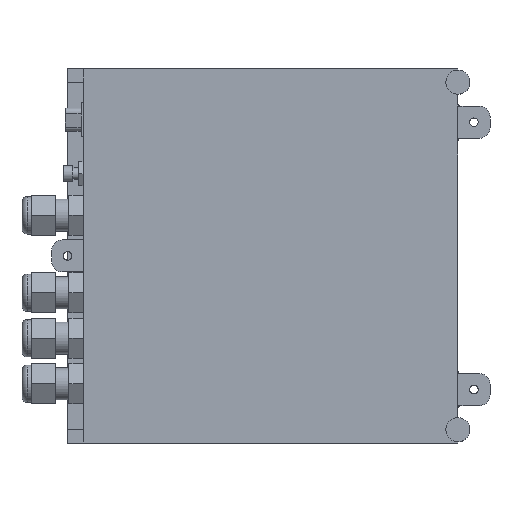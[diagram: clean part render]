
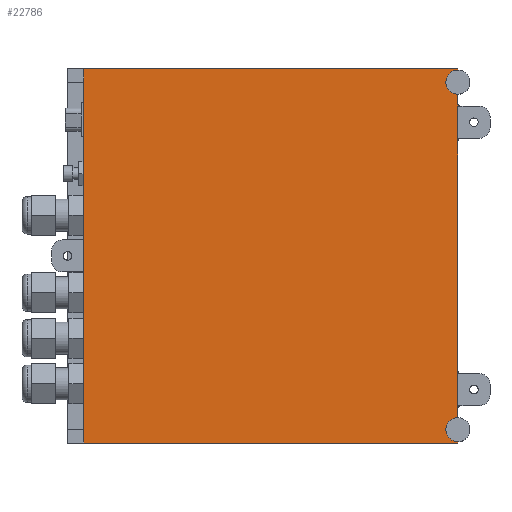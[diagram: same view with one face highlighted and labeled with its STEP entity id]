
A CAD part, top view. The second image highlights one B-rep face of the part: STEP entity #22786.
In plain terms, the highlighted planar face has unit normal (0, 0, 1).
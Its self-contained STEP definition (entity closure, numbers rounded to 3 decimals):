
#873=PLANE('',#50216);
#2999=FACE_OUTER_BOUND('',#5860,.F.);
#5860=EDGE_LOOP('',(#9924,#9925,#9926,#9927,#9928,#9929,#9930,#9931,#9932,
#9933,#9934,#9935,#9936,#9937,#9938,#9939,#9940,#9941,#9942,#9943,#9944,
#9945));
#9924=ORIENTED_EDGE('',*,*,#38756,.F.);
#9925=ORIENTED_EDGE('',*,*,#38785,.F.);
#9926=ORIENTED_EDGE('',*,*,#38634,.T.);
#9927=ORIENTED_EDGE('',*,*,#38751,.F.);
#9928=ORIENTED_EDGE('',*,*,#38764,.F.);
#9929=ORIENTED_EDGE('',*,*,#38761,.T.);
#9930=ORIENTED_EDGE('',*,*,#38763,.F.);
#9931=ORIENTED_EDGE('',*,*,#38762,.F.);
#9932=ORIENTED_EDGE('',*,*,#38768,.F.);
#9933=ORIENTED_EDGE('',*,*,#38733,.F.);
#9934=ORIENTED_EDGE('',*,*,#38770,.F.);
#9935=ORIENTED_EDGE('',*,*,#38789,.F.);
#9936=ORIENTED_EDGE('',*,*,#38625,.T.);
#9937=ORIENTED_EDGE('',*,*,#38769,.F.);
#9938=ORIENTED_EDGE('',*,*,#38753,.F.);
#9939=ORIENTED_EDGE('',*,*,#38820,.F.);
#9940=ORIENTED_EDGE('',*,*,#38819,.F.);
#9941=ORIENTED_EDGE('',*,*,#38774,.F.);
#9942=ORIENTED_EDGE('',*,*,#38706,.F.);
#9943=ORIENTED_EDGE('',*,*,#38776,.F.);
#9944=ORIENTED_EDGE('',*,*,#38775,.F.);
#9945=ORIENTED_EDGE('',*,*,#38821,.F.);
#22786=ADVANCED_FACE('',(#2999),#873,.T.);
#26812=LINE('',#69370,#31863);
#26831=LINE('',#69397,#31882);
#26849=LINE('',#69415,#31900);
#26851=LINE('',#69417,#31902);
#26854=LINE('',#69420,#31905);
#26859=LINE('',#69425,#31910);
#26860=LINE('',#69426,#31911);
#26861=LINE('',#69427,#31912);
#26862=LINE('',#69428,#31913);
#26866=LINE('',#69432,#31917);
#26867=LINE('',#69433,#31918);
#26868=LINE('',#69434,#31919);
#26872=LINE('',#69438,#31923);
#26873=LINE('',#69439,#31924);
#26874=LINE('',#69440,#31925);
#26883=LINE('',#69449,#31934);
#26887=LINE('',#69453,#31938);
#26904=LINE('',#69483,#31955);
#26905=LINE('',#69484,#31956);
#26906=LINE('',#69485,#31957);
#31863=VECTOR('',#55029,12.);
#31882=VECTOR('',#55064,12.);
#31900=VECTOR('',#55082,3.5);
#31902=VECTOR('',#55084,140.);
#31905=VECTOR('',#55087,140.);
#31910=VECTOR('',#55092,12.);
#31911=VECTOR('',#55093,86.);
#31912=VECTOR('',#55094,1.);
#31913=VECTOR('',#55095,1.);
#31917=VECTOR('',#55099,1.);
#31918=VECTOR('',#55100,0.5);
#31919=VECTOR('',#55101,1.);
#31923=VECTOR('',#55105,1.);
#31924=VECTOR('',#55106,58.);
#31925=VECTOR('',#55107,1.);
#31934=VECTOR('',#55116,0.5);
#31938=VECTOR('',#55120,3.5);
#31955=VECTOR('',#55163,58.);
#31956=VECTOR('',#55164,5.);
#31957=VECTOR('',#55165,5.);
#36684=CIRCLE('',#49896,4.5);
#36691=CIRCLE('',#49903,4.5);
#38625=EDGE_CURVE('',#45358,#45359,#36684,.T.);
#38634=EDGE_CURVE('',#45352,#45353,#36691,.T.);
#38706=EDGE_CURVE('',#45293,#45284,#26812,.T.);
#38733=EDGE_CURVE('',#45268,#45277,#26831,.T.);
#38751=EDGE_CURVE('',#45300,#45353,#26849,.T.);
#38753=EDGE_CURVE('',#45613,#45261,#26851,.T.);
#38756=EDGE_CURVE('',#45260,#45607,#26854,.T.);
#38761=EDGE_CURVE('',#45259,#45258,#26859,.T.);
#38762=EDGE_CURVE('',#45310,#45303,#26860,.T.);
#38763=EDGE_CURVE('',#45303,#45258,#26861,.T.);
#38764=EDGE_CURVE('',#45259,#45300,#26862,.T.);
#38768=EDGE_CURVE('',#45277,#45310,#26866,.T.);
#38769=EDGE_CURVE('',#45261,#45359,#26867,.T.);
#38770=EDGE_CURVE('',#45309,#45268,#26868,.T.);
#38774=EDGE_CURVE('',#45284,#45318,#26872,.T.);
#38775=EDGE_CURVE('',#45604,#45317,#26873,.T.);
#38776=EDGE_CURVE('',#45317,#45293,#26874,.T.);
#38785=EDGE_CURVE('',#45352,#45260,#26883,.T.);
#38789=EDGE_CURVE('',#45358,#45309,#26887,.T.);
#38819=EDGE_CURVE('',#45318,#45602,#26904,.T.);
#38820=EDGE_CURVE('',#45602,#45613,#26905,.T.);
#38821=EDGE_CURVE('',#45607,#45604,#26906,.T.);
#45258=VERTEX_POINT('',#68566);
#45259=VERTEX_POINT('',#68567);
#45260=VERTEX_POINT('',#68568);
#45261=VERTEX_POINT('',#68569);
#45268=VERTEX_POINT('',#68576);
#45277=VERTEX_POINT('',#68585);
#45284=VERTEX_POINT('',#68592);
#45293=VERTEX_POINT('',#68601);
#45300=VERTEX_POINT('',#68608);
#45303=VERTEX_POINT('',#68611);
#45309=VERTEX_POINT('',#68617);
#45310=VERTEX_POINT('',#68618);
#45317=VERTEX_POINT('',#68625);
#45318=VERTEX_POINT('',#68626);
#45352=VERTEX_POINT('',#68660);
#45353=VERTEX_POINT('',#68661);
#45358=VERTEX_POINT('',#68666);
#45359=VERTEX_POINT('',#68667);
#45602=VERTEX_POINT('',#68910);
#45604=VERTEX_POINT('',#68912);
#45607=VERTEX_POINT('',#68915);
#45613=VERTEX_POINT('',#68921);
#49896=AXIS2_PLACEMENT_3D('',#69201,#54922,#54923);
#49903=AXIS2_PLACEMENT_3D('',#69210,#54938,#54939);
#50216=AXIS2_PLACEMENT_3D('',#69831,#55776,#55777);
#54922=DIRECTION('',(0.,0.,1.));
#54923=DIRECTION('',(0.,1.,0.));
#54938=DIRECTION('',(0.,0.,1.));
#54939=DIRECTION('',(0.,1.,0.));
#55029=DIRECTION('',(0.,-1.,0.));
#55064=DIRECTION('',(0.,1.,0.));
#55082=DIRECTION('',(0.,1.,0.));
#55084=DIRECTION('',(1.,0.,0.));
#55087=DIRECTION('',(-1.,0.,0.));
#55092=DIRECTION('',(0.,-1.,0.));
#55093=DIRECTION('',(0.,1.,0.));
#55094=DIRECTION('',(0.,1.,0.));
#55095=DIRECTION('',(0.,1.,0.));
#55099=DIRECTION('',(0.,1.,0.));
#55100=DIRECTION('',(0.,1.,0.));
#55101=DIRECTION('',(0.,1.,0.));
#55105=DIRECTION('',(0.,-1.,0.));
#55106=DIRECTION('',(0.,-1.,0.));
#55107=DIRECTION('',(0.,-1.,0.));
#55116=DIRECTION('',(0.,1.,0.));
#55120=DIRECTION('',(0.,1.,0.));
#55163=DIRECTION('',(0.,-1.,0.));
#55164=DIRECTION('',(0.,-1.,0.));
#55165=DIRECTION('',(0.,-1.,0.));
#55776=DIRECTION('',(0.,0.,1.));
#55777=DIRECTION('',(1.,0.,0.));
#68566=CARTESIAN_POINT('',(-22.747,58.5,-34.571));
#68567=CARTESIAN_POINT('',(-22.747,70.5,-34.571));
#68568=CARTESIAN_POINT('',(-22.747,84.5,-34.571));
#68569=CARTESIAN_POINT('',(-22.747,-55.5,-34.571));
#68576=CARTESIAN_POINT('',(-22.747,-41.5,-34.571));
#68585=CARTESIAN_POINT('',(-22.747,-29.5,-34.571));
#68592=CARTESIAN_POINT('',(-162.747,8.5,-34.571));
#68601=CARTESIAN_POINT('',(-162.747,20.5,-34.571));
#68608=CARTESIAN_POINT('',(-22.747,71.5,-34.571));
#68611=CARTESIAN_POINT('',(-22.747,57.5,-34.571));
#68617=CARTESIAN_POINT('',(-22.747,-42.5,-34.571));
#68618=CARTESIAN_POINT('',(-22.747,-28.5,-34.571));
#68625=CARTESIAN_POINT('',(-162.747,21.5,-34.571));
#68626=CARTESIAN_POINT('',(-162.747,7.5,-34.571));
#68660=CARTESIAN_POINT('',(-22.747,84.,-34.571));
#68661=CARTESIAN_POINT('',(-22.747,75.,-34.571));
#68666=CARTESIAN_POINT('',(-22.747,-46.,-34.571));
#68667=CARTESIAN_POINT('',(-22.747,-55.,-34.571));
#68910=CARTESIAN_POINT('',(-162.747,-50.5,-34.571));
#68912=CARTESIAN_POINT('',(-162.747,79.5,-34.571));
#68915=CARTESIAN_POINT('',(-162.747,84.5,-34.571));
#68921=CARTESIAN_POINT('',(-162.747,-55.5,-34.571));
#69201=CARTESIAN_POINT('',(-22.747,-50.5,-34.571));
#69210=CARTESIAN_POINT('',(-22.747,79.5,-34.571));
#69370=CARTESIAN_POINT('',(-162.747,20.5,-34.571));
#69397=CARTESIAN_POINT('',(-22.747,-41.5,-34.571));
#69415=CARTESIAN_POINT('',(-22.747,71.5,-34.571));
#69417=CARTESIAN_POINT('',(-162.747,-55.5,-34.571));
#69420=CARTESIAN_POINT('',(-22.747,84.5,-34.571));
#69425=CARTESIAN_POINT('',(-22.747,70.5,-34.571));
#69426=CARTESIAN_POINT('',(-22.747,-28.5,-34.571));
#69427=CARTESIAN_POINT('',(-22.747,57.5,-34.571));
#69428=CARTESIAN_POINT('',(-22.747,70.5,-34.571));
#69432=CARTESIAN_POINT('',(-22.747,-29.5,-34.571));
#69433=CARTESIAN_POINT('',(-22.747,-55.5,-34.571));
#69434=CARTESIAN_POINT('',(-22.747,-42.5,-34.571));
#69438=CARTESIAN_POINT('',(-162.747,8.5,-34.571));
#69439=CARTESIAN_POINT('',(-162.747,79.5,-34.571));
#69440=CARTESIAN_POINT('',(-162.747,21.5,-34.571));
#69449=CARTESIAN_POINT('',(-22.747,84.,-34.571));
#69453=CARTESIAN_POINT('',(-22.747,-46.,-34.571));
#69483=CARTESIAN_POINT('',(-162.747,7.5,-34.571));
#69484=CARTESIAN_POINT('',(-162.747,-50.5,-34.571));
#69485=CARTESIAN_POINT('',(-162.747,84.5,-34.571));
#69831=CARTESIAN_POINT('',(-165.167,-57.92,-34.571));
